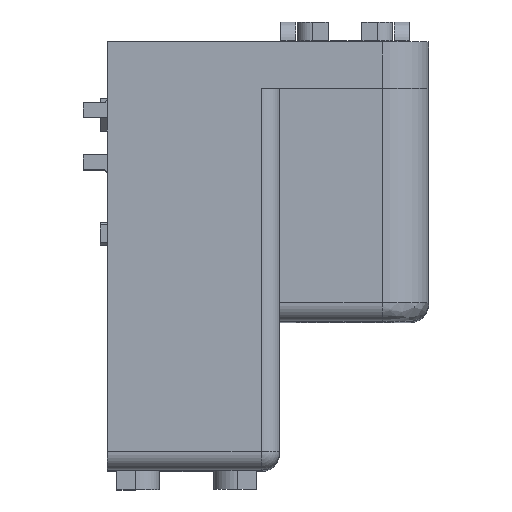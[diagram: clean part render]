
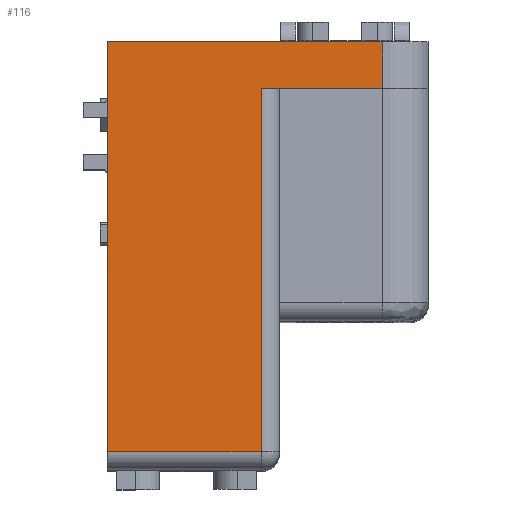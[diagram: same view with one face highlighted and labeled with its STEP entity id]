
A CAD part, top view. The second image highlights one B-rep face of the part: STEP entity #116.
In plain terms, the highlighted planar face has unit normal (0, 0, 1).
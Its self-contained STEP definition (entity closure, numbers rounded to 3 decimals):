
#116=ADVANCED_FACE('',(#1174),#1173,.F.);
#1173=PLANE('',#4349);
#1174=FACE_OUTER_BOUND('',#4350,.T.);
#4346=CARTESIAN_POINT('',(46.05,-0.6,62.2));
#4347=DIRECTION('',(0.,0.,-1.));
#4348=DIRECTION('',(1.,0.,0.));
#4349=AXIS2_PLACEMENT_3D('',#4346,#4347,#4348);
#4350=EDGE_LOOP('',(#6283,#6284,#6285,#6286,#6287,#6288));
#6283=ORIENTED_EDGE('',*,*,#8029,.T.);
#6284=ORIENTED_EDGE('',*,*,#7934,.F.);
#6285=ORIENTED_EDGE('',*,*,#8030,.T.);
#6286=ORIENTED_EDGE('',*,*,#8031,.T.);
#6287=ORIENTED_EDGE('',*,*,#7977,.T.);
#6288=ORIENTED_EDGE('',*,*,#8032,.T.);
#7934=EDGE_CURVE('',#10200,#10207,#10208,.T.);
#7977=EDGE_CURVE('',#10500,#10493,#10501,.T.);
#8029=EDGE_CURVE('',#10862,#10207,#10863,.T.);
#8030=EDGE_CURVE('',#10200,#10869,#10870,.T.);
#8031=EDGE_CURVE('',#10869,#10500,#10876,.T.);
#8032=EDGE_CURVE('',#10493,#10862,#10882,.T.);
#10200=VERTEX_POINT('',#15821);
#10207=VERTEX_POINT('',#15826);
#10208=LINE('',#15827,#15828);
#10493=VERTEX_POINT('',#15996);
#10500=VERTEX_POINT('',#16001);
#10501=LINE('',#16002,#16003);
#10862=VERTEX_POINT('',#16207);
#10863=LINE('',#16208,#16209);
#10869=VERTEX_POINT('',#16211);
#10870=LINE('',#16212,#16213);
#10876=LINE('',#16215,#16216);
#10882=LINE('',#16218,#16219);
#15821=CARTESIAN_POINT('',(78.5,-10.,62.2));
#15826=CARTESIAN_POINT('',(65.5,-10.,62.2));
#15827=CARTESIAN_POINT('',(78.5,-10.,62.2));
#15828=VECTOR('',#15829,13.);
#15829=DIRECTION('',(-1.,0.,0.));
#15996=CARTESIAN_POINT('',(49.,-49.,62.2));
#16001=CARTESIAN_POINT('',(49.,-5.,62.2));
#16002=CARTESIAN_POINT('',(49.,-5.,62.2));
#16003=VECTOR('',#16004,44.);
#16004=DIRECTION('',(0.,-1.,0.));
#16207=CARTESIAN_POINT('',(65.5,-49.,62.2));
#16208=CARTESIAN_POINT('',(65.5,-49.,62.2));
#16209=VECTOR('',#16210,39.);
#16210=DIRECTION('',(0.,1.,0.));
#16211=CARTESIAN_POINT('',(78.5,-5.,62.2));
#16212=CARTESIAN_POINT('',(78.5,-10.,62.2));
#16213=VECTOR('',#16214,5.);
#16214=DIRECTION('',(0.,1.,0.));
#16215=CARTESIAN_POINT('',(78.5,-5.,62.2));
#16216=VECTOR('',#16217,29.5);
#16217=DIRECTION('',(-1.,0.,0.));
#16218=CARTESIAN_POINT('',(49.,-49.,62.2));
#16219=VECTOR('',#16220,16.5);
#16220=DIRECTION('',(1.,0.,0.));
